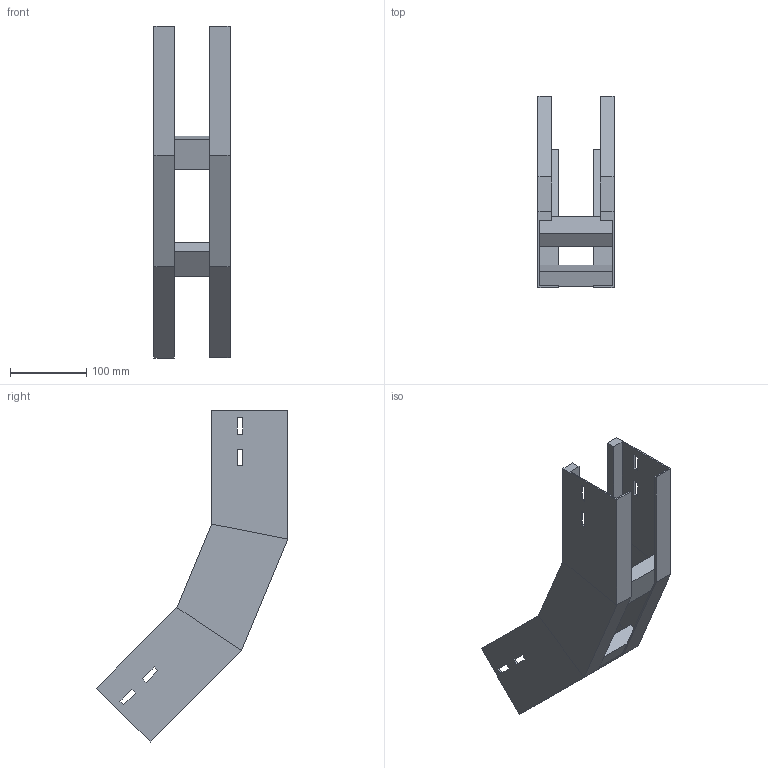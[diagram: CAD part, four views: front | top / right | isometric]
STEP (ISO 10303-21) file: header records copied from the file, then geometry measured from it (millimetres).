
FILE_DESCRIPTION (( 'STEP AP214' ), '1' );
FILE_NAME ('A2X31B3D100XX.step', '2025-03-20T10:03:46', ( '' ), ( '' ), 'SwSTEP 2.0', 'SolidWorks 2023', '' );
FILE_SCHEMA (( 'AUTOMOTIVE_DESIGN' ));
Length unit declared in the file: millimetre
Products named in the file (3): A2X31B3D100XX; TRAVERSINO_100; LONGH.SALITA_45°_H100_R300
Assembly tree (4 placements, depth 2):
  A2X31B3D100XX
    LONGH.SALITA_45°_H100_R300  x2
    TRAVERSINO_100  x2
Bounding box: 100 x 251.29 x 435.96 mm (x, y, z)
Volume: 548310.5 mm3; surface area: 290291 mm2
Topology: 4 solids, 4 shells, 96 faces, 232 edges, 144 vertices
Faces by surface type: plane 96
Entity records: 1472 total; most frequent: CARTESIAN_POINT 243, ORIENTED_EDGE 232, DIRECTION 226, LINE 116, VECTOR 116, EDGE_CURVE 116, VERTEX_POINT 72, EDGE_LOOP 56
